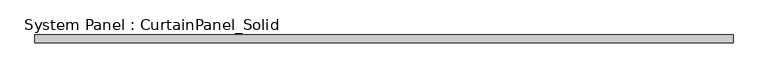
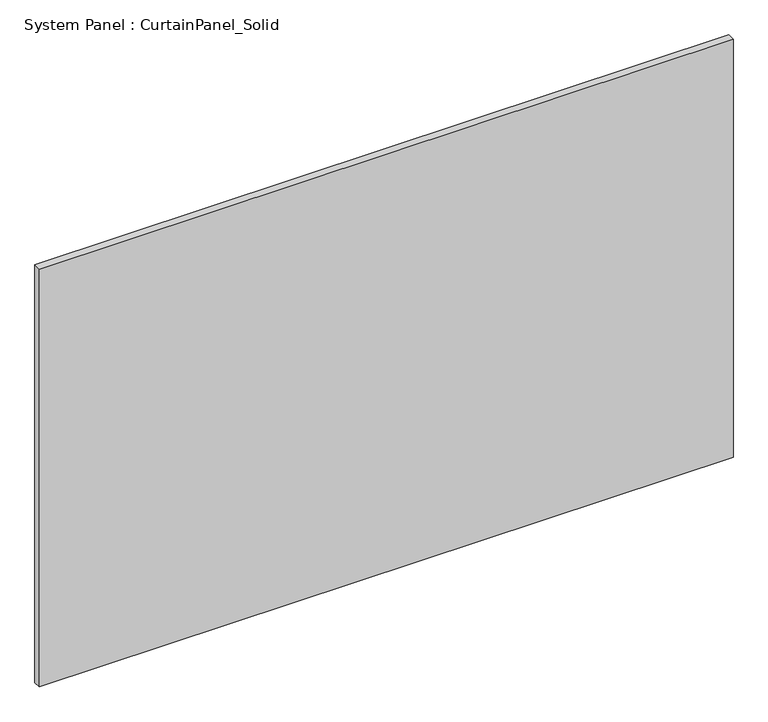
"""IFC4 building model written with IfcOpenShell, lengths in millimetres: plate geometry, System Panel : CurtainPanel_Solid."""

from ifc_helpers import new_model, si_unit, origin, origin_with_axes, place, context, project, spatial, polyline, outline, extrude, source, transform, mapped, element, save


def system_panel_curtainpanel_solid_09149663(model_context):
    return source(origin(), model_context, "Body", "SweptSolid", [
        extrude(outline(polyline([(1138.6000001, -12.5), (-1138.6000001, -12.5), (-1138.6000001, 12.5), (1138.6000001, 12.5), (1138.6000001, -12.5)])), origin_with_axes(), (0.0, 0.0, 1.0), 1450.0),
    ])


if __name__ == "__main__":
    model = new_model("IFC4")
    model_context = context("Model", 3, world=origin())
    ifc_project = project(units=[si_unit("LENGTHUNIT", "METRE", prefix="MILLI")], contexts=[model_context])
    site = spatial("IfcSite", under=ifc_project)
    building = spatial("IfcBuilding", under=site)
    placement = place(None, origin())
    system_panel_curtainpanel_solid_shape = system_panel_curtainpanel_solid_09149663(model_context)
    element("IfcPlate", 1, ObjectType="System Panel : CurtainPanel_Solid", at=placement, inside=building, context=model_context, shape_type="MappedRepresentation", body=[
        mapped(system_panel_curtainpanel_solid_shape, transform((0.0, 0.0, 0.0), x_axis=(1.0, 0.0, 0.0), y_axis=(0.0, 1.0, 0.0), z_axis=(0.0, 0.0, 1.0))),
    ])
    save(model, "model.ifc")
